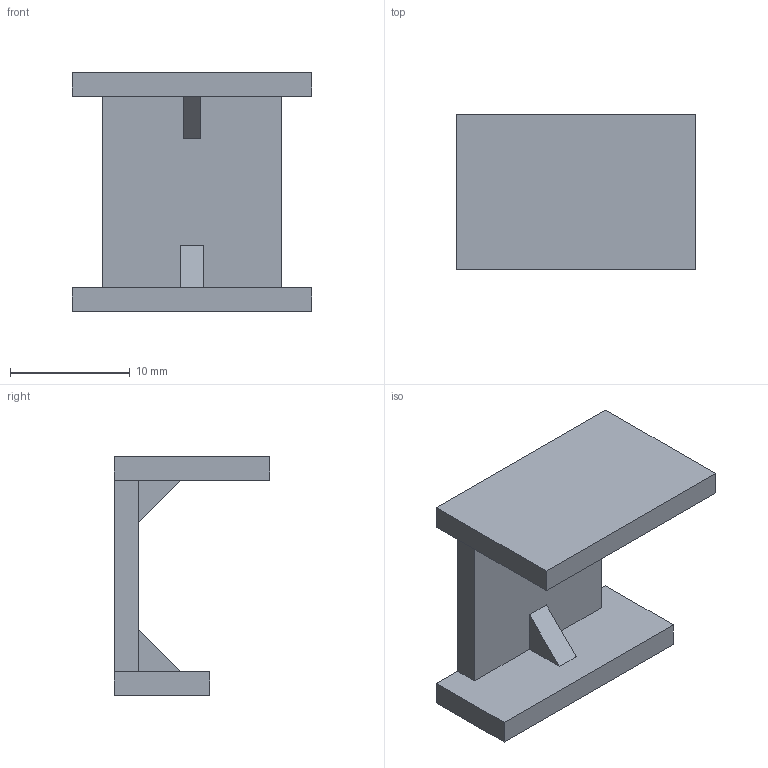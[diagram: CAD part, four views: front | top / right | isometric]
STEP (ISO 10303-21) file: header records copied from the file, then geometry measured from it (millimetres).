
FILE_DESCRIPTION (( 'STEP AP214' ), '1' );
FILE_NAME ('002312.STEP', '2022-02-21T08:09:26', ( '' ), ( '' ), 'SwSTEP 2.0', 'SolidWorks 2021', '' );
FILE_SCHEMA (( 'AUTOMOTIVE_DESIGN' ));
Length unit declared in the file: millimetre
Products named in the file (1): 002312
Bounding box: 20 x 13 x 20 mm (x, y, z)
Volume: 1341.9 mm3; surface area: 1585.8 mm2
Topology: 1 solids, 1 shells, 20 faces, 54 edges, 36 vertices
Faces by surface type: plane 20
Entity records: 652 total; most frequent: CARTESIAN_POINT 111, ORIENTED_EDGE 108, DIRECTION 96, LINE 54, VECTOR 54, EDGE_CURVE 54, VERTEX_POINT 36, AXIS2_PLACEMENT_3D 21
